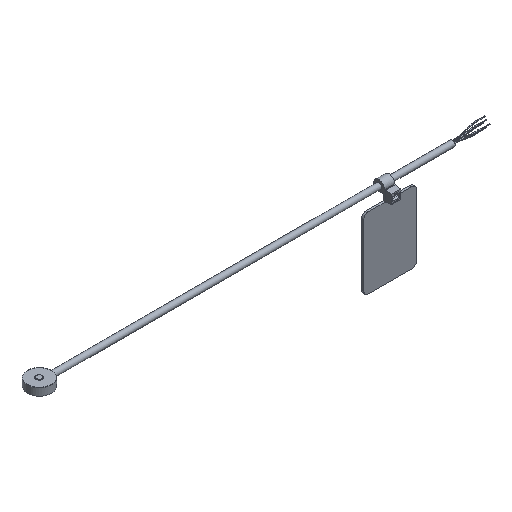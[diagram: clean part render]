
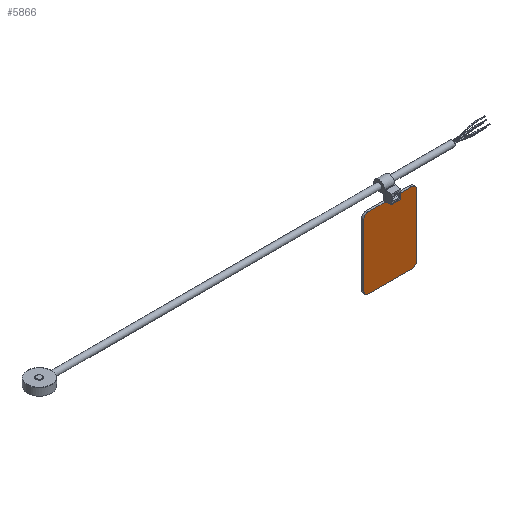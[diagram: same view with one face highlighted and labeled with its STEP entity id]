
A CAD part, isometric view. The second image highlights one B-rep face of the part: STEP entity #5866.
In plain terms, the highlighted planar face has unit normal (0, -1, 0).
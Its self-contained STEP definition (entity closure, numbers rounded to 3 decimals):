
#9 = DIRECTION ( 'NONE',  ( 0., 0., -1. ) ) ;
#52 = CARTESIAN_POINT ( 'NONE',  ( 123.936, -2.403, -2.858 ) ) ;
#67 = LINE ( 'NONE', #52, #8517 ) ;
#116 = DIRECTION ( 'NONE',  ( 1., 0., 0. ) ) ;
#134 = DIRECTION ( 'NONE',  ( 0., -1., 0. ) ) ;
#173 = ORIENTED_EDGE ( 'NONE', *, *, #11744, .T. ) ;
#179 = CARTESIAN_POINT ( 'NONE',  ( 142.669, -2.403, -28.715 ) ) ;
#275 = CARTESIAN_POINT ( 'NONE',  ( 125.841, -2.403, -2.858 ) ) ;
#282 = VERTEX_POINT ( 'NONE', #1149 ) ;
#323 = VECTOR ( 'NONE', #7498, 1000. ) ;
#1127 = EDGE_CURVE ( 'NONE', #8456, #12515, #4526, .T. ) ;
#1149 = CARTESIAN_POINT ( 'NONE',  ( 125.841, -2.403, -30.62 ) ) ;
#1245 = DIRECTION ( 'NONE',  ( 0., 0., 1. ) ) ;
#1266 = CARTESIAN_POINT ( 'NONE',  ( 144.574, -2.403, -2.858 ) ) ;
#1398 = DIRECTION ( 'NONE',  ( 1., 0., 0. ) ) ;
#1454 = DIRECTION ( 'NONE',  ( 0., -1., 0. ) ) ;
#1520 = CARTESIAN_POINT ( 'NONE',  ( 125.841, -2.403, -28.715 ) ) ;
#1614 = VERTEX_POINT ( 'NONE', #275 ) ;
#2228 = LINE ( 'NONE', #1266, #7911 ) ;
#2329 = VECTOR ( 'NONE', #4261, 1000. ) ;
#2624 = VERTEX_POINT ( 'NONE', #9292 ) ;
#2975 = EDGE_CURVE ( 'NONE', #5396, #11409, #2228, .T. ) ;
#3226 = ORIENTED_EDGE ( 'NONE', *, *, #2975, .T. ) ;
#3240 = VERTEX_POINT ( 'NONE', #4148 ) ;
#3357 = CARTESIAN_POINT ( 'NONE',  ( 144.574, -2.403, -28.715 ) ) ;
#3757 = ORIENTED_EDGE ( 'NONE', *, *, #4749, .T. ) ;
#3811 = DIRECTION ( 'NONE',  ( 1., 0., 0. ) ) ;
#3855 = DIRECTION ( 'NONE',  ( 0., -1., 0. ) ) ;
#3874 = CARTESIAN_POINT ( 'NONE',  ( 125.841, -2.403, -4.763 ) ) ;
#3949 = EDGE_CURVE ( 'NONE', #10881, #282, #6154, .T. ) ;
#4148 = CARTESIAN_POINT ( 'NONE',  ( 123.936, -2.403, -4.763 ) ) ;
#4261 = DIRECTION ( 'NONE',  ( -1., 0., 0. ) ) ;
#4270 = CARTESIAN_POINT ( 'NONE',  ( 123.936, -2.403, -2.858 ) ) ;
#4271 = LINE ( 'NONE', #4270, #2329 ) ;
#4484 = VERTEX_POINT ( 'NONE', #5010 ) ;
#4488 = DIRECTION ( 'NONE',  ( 1., 0., 0. ) ) ;
#4508 = CARTESIAN_POINT ( 'NONE',  ( 132.274, -2.403, -2.858 ) ) ;
#4526 = LINE ( 'NONE', #4508, #12157 ) ;
#4747 = EDGE_CURVE ( 'NONE', #2624, #5396, #8685, .T. ) ;
#4749 = EDGE_CURVE ( 'NONE', #3240, #10881, #67, .T. ) ;
#4865 = EDGE_CURVE ( 'NONE', #4484, #12515, #11796, .T. ) ;
#5010 = CARTESIAN_POINT ( 'NONE',  ( 142.669, -2.403, -2.858 ) ) ;
#5206 = EDGE_LOOP ( 'NONE', ( #3226, #5469, #5411, #8043, #173, #8461, #3757, #9033, #9564, #11897 ) ) ;
#5358 = EDGE_CURVE ( 'NONE', #1614, #3240, #11316, .T. ) ;
#5396 = VERTEX_POINT ( 'NONE', #3357 ) ;
#5411 = ORIENTED_EDGE ( 'NONE', *, *, #4865, .T. ) ;
#5469 = ORIENTED_EDGE ( 'NONE', *, *, #10278, .T. ) ;
#5787 = CARTESIAN_POINT ( 'NONE',  ( 144.574, -2.403, -4.763 ) ) ;
#5866 = ADVANCED_FACE ( 'NONE', ( #8814 ), #8797, .T. ) ;
#5966 = AXIS2_PLACEMENT_3D ( 'NONE', #1520, #1454, #1398 ) ;
#6100 = AXIS2_PLACEMENT_3D ( 'NONE', #10057, #10045, #10041 ) ;
#6154 = CIRCLE ( 'NONE', #5966, 1.905 ) ;
#7498 = DIRECTION ( 'NONE',  ( 1., 0., 0. ) ) ;
#7500 = CARTESIAN_POINT ( 'NONE',  ( 123.936, -2.403, -30.62 ) ) ;
#7511 = LINE ( 'NONE', #7500, #323 ) ;
#7747 = VECTOR ( 'NONE', #11726, 1000. ) ;
#7911 = VECTOR ( 'NONE', #1245, 1000. ) ;
#8043 = ORIENTED_EDGE ( 'NONE', *, *, #1127, .F. ) ;
#8077 = CARTESIAN_POINT ( 'NONE',  ( 123.936, -2.403, -28.715 ) ) ;
#8170 = CARTESIAN_POINT ( 'NONE',  ( 132.274, -2.403, -2.858 ) ) ;
#8267 = AXIS2_PLACEMENT_3D ( 'NONE', #8777, #8738, #8722 ) ;
#8456 = VERTEX_POINT ( 'NONE', #8170 ) ;
#8461 = ORIENTED_EDGE ( 'NONE', *, *, #5358, .T. ) ;
#8517 = VECTOR ( 'NONE', #9, 1000. ) ;
#8678 = AXIS2_PLACEMENT_3D ( 'NONE', #179, #134, #116 ) ;
#8685 = CIRCLE ( 'NONE', #8678, 1.905 ) ;
#8722 = DIRECTION ( 'NONE',  ( 1., 0., 0. ) ) ;
#8738 = DIRECTION ( 'NONE',  ( 0., -1., 0. ) ) ;
#8777 = CARTESIAN_POINT ( 'NONE',  ( 123.936, -2.403, -30.62 ) ) ;
#8797 = PLANE ( 'NONE',  #8267 ) ;
#8814 = FACE_OUTER_BOUND ( 'NONE', #5206, .T. ) ;
#9033 = ORIENTED_EDGE ( 'NONE', *, *, #3949, .T. ) ;
#9292 = CARTESIAN_POINT ( 'NONE',  ( 142.669, -2.403, -30.62 ) ) ;
#9564 = ORIENTED_EDGE ( 'NONE', *, *, #11110, .T. ) ;
#10041 = DIRECTION ( 'NONE',  ( 1., 0., 0. ) ) ;
#10045 = DIRECTION ( 'NONE',  ( 0., -1., 0. ) ) ;
#10057 = CARTESIAN_POINT ( 'NONE',  ( 142.669, -2.403, -4.763 ) ) ;
#10278 = EDGE_CURVE ( 'NONE', #11409, #4484, #11467, .T. ) ;
#10881 = VERTEX_POINT ( 'NONE', #8077 ) ;
#11110 = EDGE_CURVE ( 'NONE', #282, #2624, #7511, .T. ) ;
#11306 = AXIS2_PLACEMENT_3D ( 'NONE', #3874, #3855, #3811 ) ;
#11316 = CIRCLE ( 'NONE', #11306, 1.905 ) ;
#11409 = VERTEX_POINT ( 'NONE', #5787 ) ;
#11467 = CIRCLE ( 'NONE', #6100, 1.905 ) ;
#11726 = DIRECTION ( 'NONE',  ( -1., 0., 0. ) ) ;
#11744 = EDGE_CURVE ( 'NONE', #8456, #1614, #4271, .T. ) ;
#11781 = CARTESIAN_POINT ( 'NONE',  ( 136.236, -2.403, -2.858 ) ) ;
#11796 = LINE ( 'NONE', #11781, #7747 ) ;
#11897 = ORIENTED_EDGE ( 'NONE', *, *, #4747, .T. ) ;
#11931 = CARTESIAN_POINT ( 'NONE',  ( 136.236, -2.403, -2.858 ) ) ;
#12157 = VECTOR ( 'NONE', #4488, 1000. ) ;
#12515 = VERTEX_POINT ( 'NONE', #11931 ) ;
